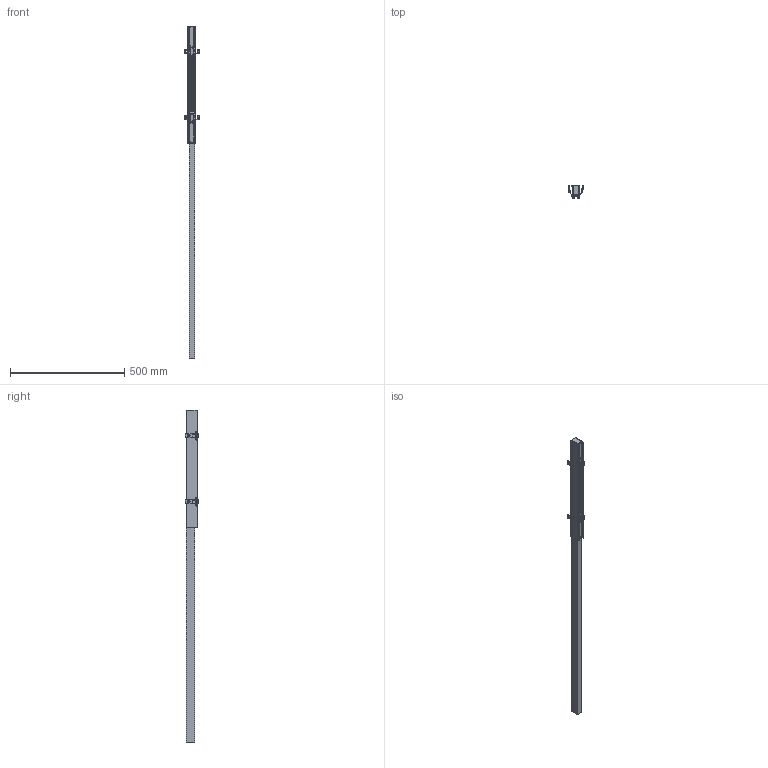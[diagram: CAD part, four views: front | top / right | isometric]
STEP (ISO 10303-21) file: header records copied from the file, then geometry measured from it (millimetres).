
FILE_DESCRIPTION(/* description */ ('Unknown'),/* implementation_level */ '2;1');
FILE_NAME(/* name */ '98374',/* time_stamp */ '2023-02-07T05:18:57-05:00',/* author */ ('Unknown'),/* organization */ ('Unknown'),/* preprocessor_version */ 'ST-DEVELOPER v18.1',/* originating_system */ 'Solid Edge',/* authorisation */ 'Unknown');
FILE_SCHEMA (('AUTOMOTIVE_DESIGN {1 0 10303 214 3 1 1}'));
Length unit declared in the file: millimetre
Products named in the file (8): CONTROCASSA A MOLLE; LED-PRO885; LED-RIV004; ATTACCO+MOLLE; LED-STA336; LED-MOL030; LED-OR130; LED-POL022
Assembly tree (17 placements, depth 3):
  CONTROCASSA A MOLLE
    LED-PRO885
    LED-RIV004  x8
    ATTACCO+MOLLE  x2
      LED-STA336
      LED-MOL030
      LED-OR130
    LED-POL022
Bounding box: 66.4 x 59 x 1452 mm (x, y, z)
Volume: 1544743.3 mm3; surface area: 348252.9 mm2
Topology: 20 solids, 20 shells, 1292 faces, 3174 edges, 1856 vertices
Faces by surface type: cylinder 560, plane 300, bspline 188, torus 140, sphere 104
Full cylindrical faces by diameter (mm): 1.5 x32, 3.2 x8, 3.3 x8, 3.5 x8, 6.5 x8
Entity records: 17696 total; most frequent: CARTESIAN_POINT 4877, DIRECTION 2659, ORIENTED_EDGE 2634, EDGE_CURVE 1317, AXIS2_PLACEMENT_3D 1018, VERTEX_POINT 845, LINE 623, VECTOR 623
